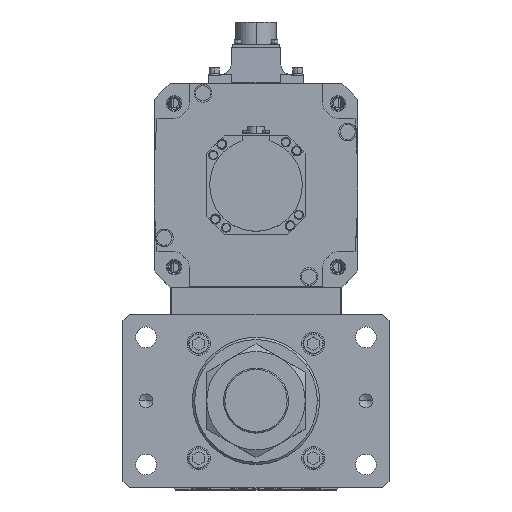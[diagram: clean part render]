
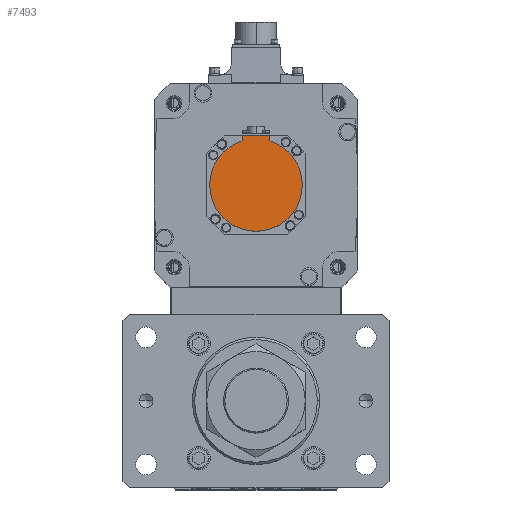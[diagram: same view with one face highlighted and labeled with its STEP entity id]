
A CAD part, top view. The second image highlights one B-rep face of the part: STEP entity #7493.
In plain terms, the highlighted planar face has unit normal (0, 0, 1) as drawn and (0, 0, -1) by its records, which use the part's own axes.
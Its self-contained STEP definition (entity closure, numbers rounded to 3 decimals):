
#206 = CARTESIAN_POINT ( 'NONE',  ( 0., -42.5, -162.5 ) ) ;
#2146 = CARTESIAN_POINT ( 'NONE',  ( -40., 0., -162.5 ) ) ;
#2904 = EDGE_CURVE ( 'NONE', #18545, #39230, #39787, .T. ) ;
#3220 = VERTEX_POINT ( 'NONE', #2146 ) ;
#7493 = ADVANCED_FACE ( 'NONE', ( #10513 ), #22601, .F. ) ;
#7676 = CIRCLE ( 'NONE', #12897, 40. ) ;
#7760 = CARTESIAN_POINT ( 'NONE',  ( -12., -38.158, -162.5 ) ) ;
#7943 = DIRECTION ( 'NONE',  ( 1., 0., 0. ) ) ;
#8539 = CIRCLE ( 'NONE', #14635, 40. ) ;
#9805 = CARTESIAN_POINT ( 'NONE',  ( 0., 0., -162.5 ) ) ;
#10513 = FACE_OUTER_BOUND ( 'NONE', #41061, .T. ) ;
#10546 = CARTESIAN_POINT ( 'NONE',  ( 0., -1.249, -162.5 ) ) ;
#10597 = EDGE_CURVE ( 'NONE', #38999, #46743, #7676, .T. ) ;
#11782 = CARTESIAN_POINT ( 'NONE',  ( -12., -42.5, -162.5 ) ) ;
#12784 = CARTESIAN_POINT ( 'NONE',  ( -12., -40.329, -162.5 ) ) ;
#12897 = AXIS2_PLACEMENT_3D ( 'NONE', #50139, #33563, #26070 ) ;
#13764 = EDGE_CURVE ( 'NONE', #18545, #38999, #29492, .T. ) ;
#14607 = DIRECTION ( 'NONE',  ( 0., 0., 1. ) ) ;
#14635 = AXIS2_PLACEMENT_3D ( 'NONE', #9805, #42356, #17989 ) ;
#15989 = ORIENTED_EDGE ( 'NONE', *, *, #35222, .F. ) ;
#17167 = ORIENTED_EDGE ( 'NONE', *, *, #41223, .F. ) ;
#17989 = DIRECTION ( 'NONE',  ( 1., 0., 0. ) ) ;
#18545 = VERTEX_POINT ( 'NONE', #41882 ) ;
#18596 = VECTOR ( 'NONE', #41258, 1000. ) ;
#22601 = PLANE ( 'NONE',  #40379 ) ;
#25382 = VERTEX_POINT ( 'NONE', #7760 ) ;
#26070 = DIRECTION ( 'NONE',  ( 1., 0., 0. ) ) ;
#28350 = DIRECTION ( 'NONE',  ( -1., 0., 0. ) ) ;
#29442 = AXIS2_PLACEMENT_3D ( 'NONE', #32707, #37141, #7943 ) ;
#29492 = LINE ( 'NONE', #39994, #50546 ) ;
#31954 = ORIENTED_EDGE ( 'NONE', *, *, #34610, .T. ) ;
#32707 = CARTESIAN_POINT ( 'NONE',  ( 0., 0., -162.5 ) ) ;
#33070 = ORIENTED_EDGE ( 'NONE', *, *, #2904, .T. ) ;
#33563 = DIRECTION ( 'NONE',  ( 0., 0., 1. ) ) ;
#34610 = EDGE_CURVE ( 'NONE', #39230, #25382, #35822, .T. ) ;
#35057 = CARTESIAN_POINT ( 'NONE',  ( 40., 0., -162.5 ) ) ;
#35222 = EDGE_CURVE ( 'NONE', #46743, #3220, #51720, .T. ) ;
#35822 = LINE ( 'NONE', #12784, #18596 ) ;
#37141 = DIRECTION ( 'NONE',  ( 0., 0., 1. ) ) ;
#38641 = DIRECTION ( 'NONE',  ( 1., 0., 0. ) ) ;
#38999 = VERTEX_POINT ( 'NONE', #44204 ) ;
#39230 = VERTEX_POINT ( 'NONE', #11782 ) ;
#39787 = LINE ( 'NONE', #206, #46801 ) ;
#39994 = CARTESIAN_POINT ( 'NONE',  ( 12., -1.249, -162.5 ) ) ;
#40379 = AXIS2_PLACEMENT_3D ( 'NONE', #10546, #14607, #38641 ) ;
#40682 = DIRECTION ( 'NONE',  ( 0., 1., 0. ) ) ;
#41061 = EDGE_LOOP ( 'NONE', ( #31954, #17167, #15989, #43326, #47302, #33070 ) ) ;
#41223 = EDGE_CURVE ( 'NONE', #3220, #25382, #8539, .T. ) ;
#41258 = DIRECTION ( 'NONE',  ( 0., 1., 0. ) ) ;
#41882 = CARTESIAN_POINT ( 'NONE',  ( 12., -42.5, -162.5 ) ) ;
#42356 = DIRECTION ( 'NONE',  ( 0., 0., 1. ) ) ;
#43326 = ORIENTED_EDGE ( 'NONE', *, *, #10597, .F. ) ;
#44204 = CARTESIAN_POINT ( 'NONE',  ( 12., -38.158, -162.5 ) ) ;
#46743 = VERTEX_POINT ( 'NONE', #35057 ) ;
#46801 = VECTOR ( 'NONE', #28350, 1000. ) ;
#47302 = ORIENTED_EDGE ( 'NONE', *, *, #13764, .F. ) ;
#50139 = CARTESIAN_POINT ( 'NONE',  ( 0., 0., -162.5 ) ) ;
#50546 = VECTOR ( 'NONE', #40682, 1000. ) ;
#51720 = CIRCLE ( 'NONE', #29442, 40. ) ;
